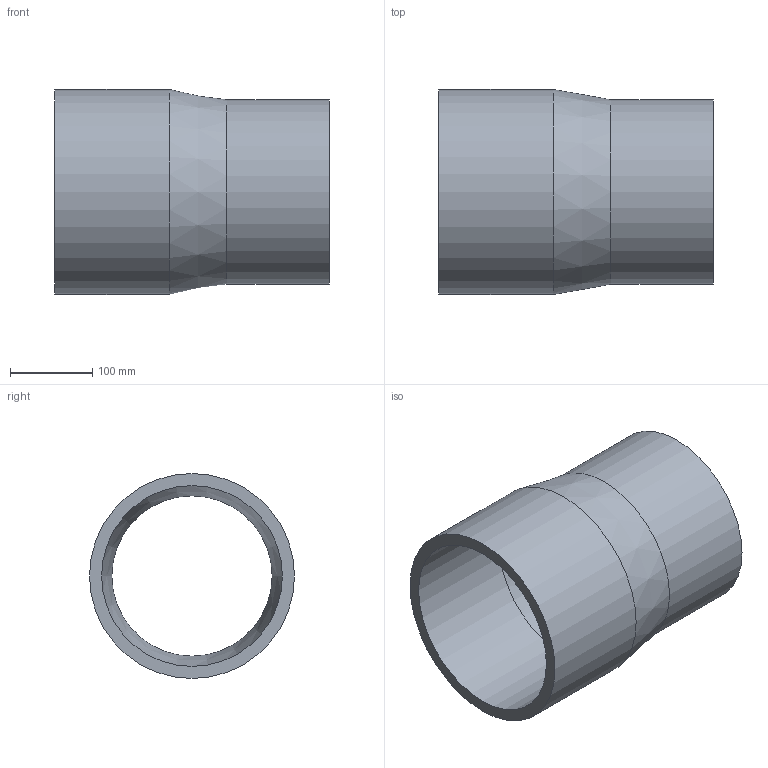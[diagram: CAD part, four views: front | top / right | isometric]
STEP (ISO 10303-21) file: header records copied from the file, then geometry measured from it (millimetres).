
FILE_DESCRIPTION(('Beschreibung'),'1');
FILE_NAME('V:/Ziel/25.91.03.063_SDR_17_PE100_250_225.STP', '2014-09-15T06:04:21',('Author'), ('Organization'), 'KCM Version 1.1.794.0', 'Kubotek KeyCreator', 'Authorization');
FILE_SCHEMA(('CONFIG_CONTROL_DESIGN'));
Length unit declared in the file: millimetre
Bounding box: 335 x 250 x 250 mm (x, y, z)
Volume: 3488200.5 mm3; surface area: 492087.6 mm2
Topology: 1 solids, 1 shells, 8 faces, 22 edges, 24 vertices
Faces by surface type: cylinder 4, cone 2, plane 2
Full cylindrical faces by diameter (mm): 195.4 x1, 220.4 x1, 225 x1, 250 x1
Entity records: 321 total; most frequent: DIRECTION 48, CARTESIAN_POINT 39, ORIENTED_EDGE 28, AXIS2_PLACEMENT_3D 17, EDGE_CURVE 14, VECTOR 14, LINE 14, EDGE_LOOP 10
